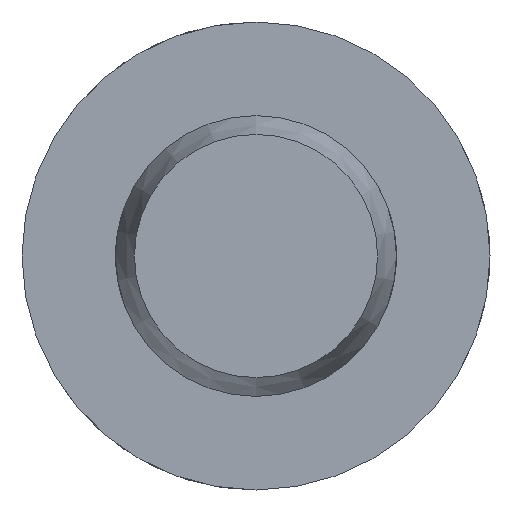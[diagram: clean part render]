
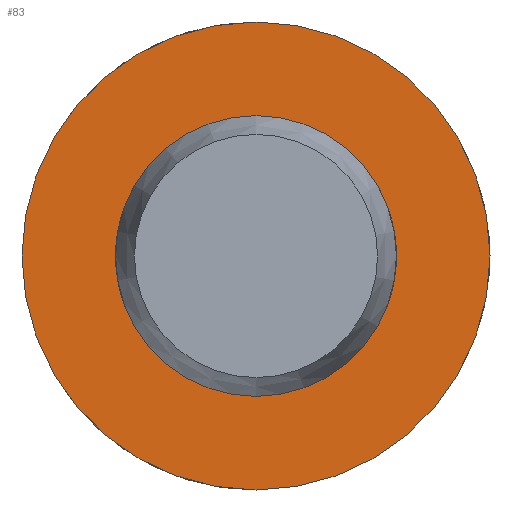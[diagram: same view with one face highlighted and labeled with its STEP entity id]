
A CAD part, left-side view. The second image highlights one B-rep face of the part: STEP entity #83.
In plain terms, the highlighted planar face has unit normal (-1, 0, 0).
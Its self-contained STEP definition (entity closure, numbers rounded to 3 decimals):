
#83 = ADVANCED_FACE( '', ( #128, #129 ), #130, .F. );
#128 = FACE_OUTER_BOUND( '', #205, .T. );
#129 = FACE_BOUND( '', #206, .T. );
#130 = PLANE( '', #207 );
#205 = EDGE_LOOP( '', ( #320 ) );
#206 = EDGE_LOOP( '', ( #321 ) );
#207 = AXIS2_PLACEMENT_3D( '', #322, #323, #324 );
#320 = ORIENTED_EDGE( '', *, *, #484, .F. );
#321 = ORIENTED_EDGE( '', *, *, #474, .T. );
#322 = CARTESIAN_POINT( '', ( 100.6, 6., 0. ) );
#323 = DIRECTION( '', ( 1., 0., 0. ) );
#324 = DIRECTION( '', ( 0., 0., -1. ) );
#474 = EDGE_CURVE( '', #545, #545, #546, .T. );
#484 = EDGE_CURVE( '', #563, #563, #564, .T. );
#545 = VERTEX_POINT( '', #734 );
#546 = CIRCLE( '', #735, 6. );
#563 = VERTEX_POINT( '', #903 );
#564 = CIRCLE( '', #904, 10. );
#734 = CARTESIAN_POINT( '', ( 100.6, 0., -6. ) );
#735 = AXIS2_PLACEMENT_3D( '', #965, #966, #967 );
#903 = CARTESIAN_POINT( '', ( 100.6, 0., -10. ) );
#904 = AXIS2_PLACEMENT_3D( '', #986, #987, #988 );
#965 = CARTESIAN_POINT( '', ( 100.6, 0., 0. ) );
#966 = DIRECTION( '', ( 1., 0., 0. ) );
#967 = DIRECTION( '', ( 0., 0., -1. ) );
#986 = CARTESIAN_POINT( '', ( 100.6, 0., 0. ) );
#987 = DIRECTION( '', ( 1., 0., 0. ) );
#988 = DIRECTION( '', ( 0., 0., -1. ) );
